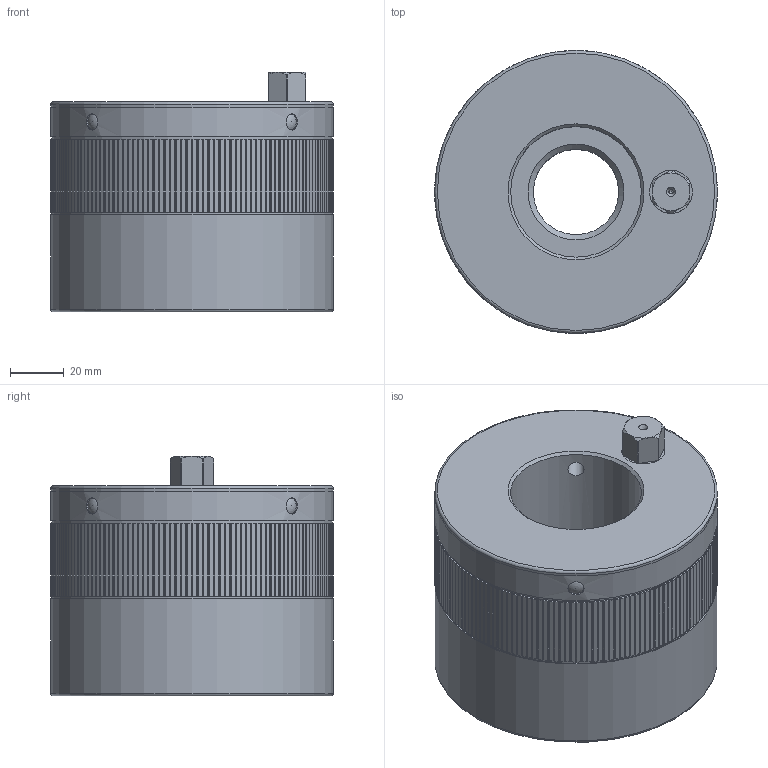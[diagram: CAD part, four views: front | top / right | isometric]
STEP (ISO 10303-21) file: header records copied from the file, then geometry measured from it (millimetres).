
FILE_DESCRIPTION(/* description */ ('Unknown','CAx-IF Rec.Pracs.---Representation and Presentation of Product Manufacturing Information (PMI)---4.0---2014-10-13','CAx-IF Rec.Pracs.---3D Tessellated Geometry---0.4---2014-09-14','2;1'),/* implementation_level */ '2;1');
FILE_NAME(/* name */ 'MDA 180_SW14_M36',/* time_stamp */ '2023-09-15T11:10:16+02:00',/* author */ ('Unknown'),/* organization */ ('Unknown'),/* preprocessor_version */ 'ST-DEVELOPER v18.102',/* originating_system */ 'Solid Edge',/* authorisation */ 'Unknown');
FILE_SCHEMA (('AP242_MANAGED_MODEL_BASED_3D_ENGINEERING_MIM_LF { 1 0 10303 442 1 1 4 }'));
Length unit declared in the file: millimetre
Products named in the file (7): 05933054; 43733051; 42231918; KT100003; 46432086; KT100869; 46331519
Assembly tree (9 placements, depth 2):
  05933054
    43733051
    42231918
    KT100003  x4
    46432086
    KT100869
    46331519
Bounding box: 105 x 105 x 89 mm (x, y, z)
Volume: 507300.7 mm3; surface area: 143091.5 mm2
Topology: 9 solids, 9 shells, 617 faces, 1758 edges, 1160 vertices
Faces by surface type: plane 354, cylinder 205, cone 36, torus 10, sphere 8, bspline 4
Full cylindrical faces by diameter (mm): 1.6 x2, 6 x12, 16 x2, 16.5 x1, 31.67 x1, 48.5 x1, 62 x3, 83.2 x1, 88 x1, 90 x1, 95.5 x1, 95.9 x1, 96 x3, 104 x2, 105 x3
Entity records: 20001 total; most frequent: CARTESIAN_POINT 3917, ORIENTED_EDGE 3254, DIRECTION 3250, EDGE_CURVE 1627, LINE 1154, VECTOR 1154, VERTEX_POINT 1117, AXIS2_PLACEMENT_3D 1048
